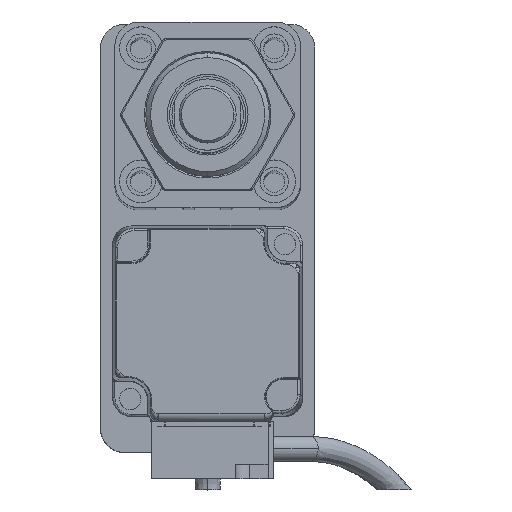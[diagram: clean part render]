
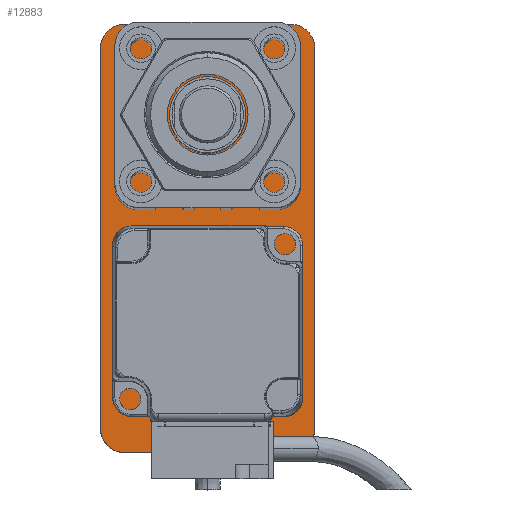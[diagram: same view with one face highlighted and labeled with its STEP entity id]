
A CAD part, top view. The second image highlights one B-rep face of the part: STEP entity #12883.
In plain terms, the highlighted planar face has unit normal (0, 0, 1).
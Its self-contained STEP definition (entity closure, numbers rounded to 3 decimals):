
#209 = CARTESIAN_POINT ( 'NONE',  ( -17.5, -40., 10. ) ) ;
#584 = DIRECTION ( 'NONE',  ( 0., 0., 1. ) ) ;
#794 = CARTESIAN_POINT ( 'NONE',  ( -17.5, 40., 10. ) ) ;
#1080 = VERTEX_POINT ( 'NONE', #13090 ) ;
#1147 = CARTESIAN_POINT ( 'NONE',  ( 22.5, -40., 10. ) ) ;
#1993 = AXIS2_PLACEMENT_3D ( 'NONE', #19984, #21811, #7246 ) ;
#2104 = DIRECTION ( 'NONE',  ( 0., 0., 1. ) ) ;
#2892 = DIRECTION ( 'NONE',  ( 1., 0., 0. ) ) ;
#3124 = CARTESIAN_POINT ( 'NONE',  ( 22.5, -45., 10. ) ) ;
#3519 = ORIENTED_EDGE ( 'NONE', *, *, #25058, .T. ) ;
#3648 = EDGE_CURVE ( 'NONE', #26701, #10757, #15468, .T. ) ;
#5133 = AXIS2_PLACEMENT_3D ( 'NONE', #25575, #20954, #16726 ) ;
#5147 = DIRECTION ( 'NONE',  ( 0., 0., 1. ) ) ;
#5460 = CARTESIAN_POINT ( 'NONE',  ( -22.5, 40., 10. ) ) ;
#5486 = AXIS2_PLACEMENT_3D ( 'NONE', #209, #2104, #19364 ) ;
#5558 = DIRECTION ( 'NONE',  ( 1., 0., 0. ) ) ;
#6110 = ORIENTED_EDGE ( 'NONE', *, *, #15467, .T. ) ;
#7246 = DIRECTION ( 'NONE',  ( 1., 0., 0. ) ) ;
#7690 = CARTESIAN_POINT ( 'NONE',  ( 22.5, 40., 10. ) ) ;
#8871 = CARTESIAN_POINT ( 'NONE',  ( 17.5, 45., 10. ) ) ;
#9344 = CARTESIAN_POINT ( 'NONE',  ( 17.5, -40., 10. ) ) ;
#9422 = EDGE_CURVE ( 'NONE', #1080, #24551, #26065, .T. ) ;
#9432 = DIRECTION ( 'NONE',  ( 1., 0., 0. ) ) ;
#10757 = VERTEX_POINT ( 'NONE', #26570 ) ;
#11164 = EDGE_LOOP ( 'NONE', ( #21035, #20247, #24718, #6110, #14892, #3519, #27042, #21195 ) ) ;
#12204 = VERTEX_POINT ( 'NONE', #7690 ) ;
#12312 = CARTESIAN_POINT ( 'NONE',  ( -17.5, -45., 10. ) ) ;
#12883 = ADVANCED_FACE ( 'NONE', ( #23878 ), #13247, .T. ) ;
#13090 = CARTESIAN_POINT ( 'NONE',  ( 17.5, -45., 10. ) ) ;
#13247 = PLANE ( 'NONE',  #1993 ) ;
#14892 = ORIENTED_EDGE ( 'NONE', *, *, #18259, .T. ) ;
#15467 = EDGE_CURVE ( 'NONE', #10757, #20425, #24057, .T. ) ;
#15468 = LINE ( 'NONE', #18825, #20504 ) ;
#16726 = DIRECTION ( 'NONE',  ( 1., 0., 0. ) ) ;
#16753 = VERTEX_POINT ( 'NONE', #12312 ) ;
#16877 = CARTESIAN_POINT ( 'NONE',  ( -22.5, -45., 10. ) ) ;
#17894 = EDGE_CURVE ( 'NONE', #12204, #26701, #21946, .T. ) ;
#18259 = EDGE_CURVE ( 'NONE', #20425, #25256, #26361, .T. ) ;
#18591 = VECTOR ( 'NONE', #24407, 1000. ) ;
#18825 = CARTESIAN_POINT ( 'NONE',  ( 22.5, 45., 10. ) ) ;
#19113 = VECTOR ( 'NONE', #5558, 1000. ) ;
#19187 = AXIS2_PLACEMENT_3D ( 'NONE', #794, #5147, #2892 ) ;
#19364 = DIRECTION ( 'NONE',  ( 1., 0., 0. ) ) ;
#19450 = AXIS2_PLACEMENT_3D ( 'NONE', #9344, #584, #9432 ) ;
#19984 = CARTESIAN_POINT ( 'NONE',  ( 0., 0., 10. ) ) ;
#20247 = ORIENTED_EDGE ( 'NONE', *, *, #17894, .T. ) ;
#20425 = VERTEX_POINT ( 'NONE', #5460 ) ;
#20504 = VECTOR ( 'NONE', #23136, 1000. ) ;
#20954 = DIRECTION ( 'NONE',  ( 0., 0., 1. ) ) ;
#21035 = ORIENTED_EDGE ( 'NONE', *, *, #23395, .T. ) ;
#21195 = ORIENTED_EDGE ( 'NONE', *, *, #9422, .T. ) ;
#21811 = DIRECTION ( 'NONE',  ( 0., 0., 1. ) ) ;
#21946 = CIRCLE ( 'NONE', #5133, 5. ) ;
#22127 = CARTESIAN_POINT ( 'NONE',  ( -22.5, -40., 10. ) ) ;
#22685 = EDGE_CURVE ( 'NONE', #16753, #1080, #25502, .T. ) ;
#23136 = DIRECTION ( 'NONE',  ( -1., 0., 0. ) ) ;
#23395 = EDGE_CURVE ( 'NONE', #24551, #12204, #26367, .T. ) ;
#23878 = FACE_OUTER_BOUND ( 'NONE', #11164, .T. ) ;
#24057 = CIRCLE ( 'NONE', #19187, 5. ) ;
#24312 = CARTESIAN_POINT ( 'NONE',  ( 22.5, -45., 10. ) ) ;
#24407 = DIRECTION ( 'NONE',  ( 0., 1., 0. ) ) ;
#24551 = VERTEX_POINT ( 'NONE', #1147 ) ;
#24718 = ORIENTED_EDGE ( 'NONE', *, *, #3648, .T. ) ;
#25058 = EDGE_CURVE ( 'NONE', #25256, #16753, #26615, .T. ) ;
#25256 = VERTEX_POINT ( 'NONE', #22127 ) ;
#25502 = LINE ( 'NONE', #3124, #19113 ) ;
#25575 = CARTESIAN_POINT ( 'NONE',  ( 17.5, 40., 10. ) ) ;
#25735 = DIRECTION ( 'NONE',  ( 0., -1., 0. ) ) ;
#26065 = CIRCLE ( 'NONE', #19450, 5. ) ;
#26361 = LINE ( 'NONE', #16877, #27039 ) ;
#26367 = LINE ( 'NONE', #24312, #18591 ) ;
#26570 = CARTESIAN_POINT ( 'NONE',  ( -17.5, 45., 10. ) ) ;
#26615 = CIRCLE ( 'NONE', #5486, 5. ) ;
#26701 = VERTEX_POINT ( 'NONE', #8871 ) ;
#27039 = VECTOR ( 'NONE', #25735, 1000. ) ;
#27042 = ORIENTED_EDGE ( 'NONE', *, *, #22685, .T. ) ;
